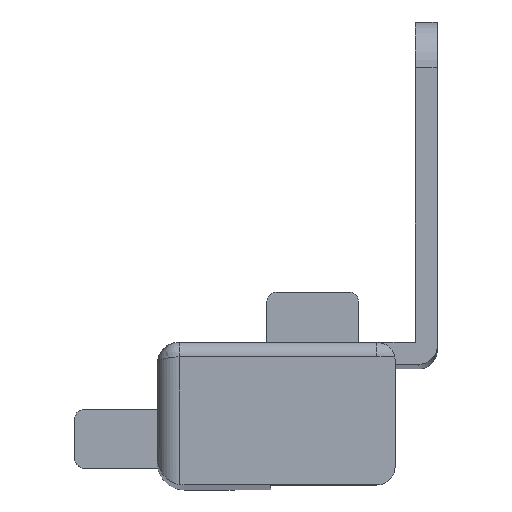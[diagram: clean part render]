
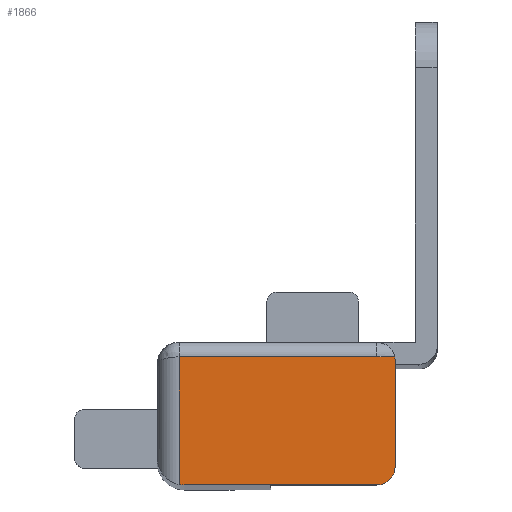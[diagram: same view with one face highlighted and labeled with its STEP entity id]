
A CAD part, top view. The second image highlights one B-rep face of the part: STEP entity #1866.
In plain terms, the highlighted planar face has unit normal (0, 0, 1).
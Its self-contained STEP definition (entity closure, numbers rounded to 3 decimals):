
#28 = EDGE_CURVE ( 'NONE', #424, #1555, #1658, .T. ) ;
#39 = EDGE_CURVE ( 'NONE', #424, #672, #688, .T. ) ;
#79 = VERTEX_POINT ( 'NONE', #443 ) ;
#138 = CARTESIAN_POINT ( 'NONE',  ( 13., 6.845, 68.46 ) ) ;
#174 = ORIENTED_EDGE ( 'NONE', *, *, #178, .F. ) ;
#178 = EDGE_CURVE ( 'NONE', #880, #1870, #2018, .T. ) ;
#180 = FACE_OUTER_BOUND ( 'NONE', #1449, .T. ) ;
#183 = AXIS2_PLACEMENT_3D ( 'NONE', #219, #209, #216 ) ;
#209 = DIRECTION ( 'NONE',  ( 0., 0., 1. ) ) ;
#214 = ORIENTED_EDGE ( 'NONE', *, *, #1374, .F. ) ;
#216 = DIRECTION ( 'NONE',  ( -1., 0., 0. ) ) ;
#219 = CARTESIAN_POINT ( 'NONE',  ( 12., -3.9, 68.46 ) ) ;
#232 = EDGE_CURVE ( 'NONE', #1870, #79, #2161, .T. ) ;
#250 = DIRECTION ( 'NONE',  ( 0., 1., 0. ) ) ;
#269 = ORIENTED_EDGE ( 'NONE', *, *, #320, .F. ) ;
#320 = EDGE_CURVE ( 'NONE', #672, #1815, #1301, .T. ) ;
#335 = CARTESIAN_POINT ( 'NONE',  ( 13., -3.9, 68.46 ) ) ;
#343 = DIRECTION ( 'NONE',  ( -1., 0., 0. ) ) ;
#418 = ORIENTED_EDGE ( 'NONE', *, *, #232, .F. ) ;
#424 = VERTEX_POINT ( 'NONE', #1076 ) ;
#443 = CARTESIAN_POINT ( 'NONE',  ( 12.98, 2.1, 68.46 ) ) ;
#498 = DIRECTION ( 'NONE',  ( -1., 0., 0. ) ) ;
#533 = CARTESIAN_POINT ( 'NONE',  ( 12., 1.9, 68.46 ) ) ;
#559 = DIRECTION ( 'NONE',  ( -1., 0., 0. ) ) ;
#630 = VECTOR ( 'NONE', #343, 1000. ) ;
#645 = ORIENTED_EDGE ( 'NONE', *, *, #866, .T. ) ;
#658 = CARTESIAN_POINT ( 'NONE',  ( 0., 2.1, 68.46 ) ) ;
#661 = DIRECTION ( 'NONE',  ( 1., 0., 0. ) ) ;
#672 = VERTEX_POINT ( 'NONE', #1276 ) ;
#688 = LINE ( 'NONE', #774, #630 ) ;
#722 = AXIS2_PLACEMENT_3D ( 'NONE', #2030, #1196, #498 ) ;
#730 = CARTESIAN_POINT ( 'NONE',  ( -2., 2.1, 68.46 ) ) ;
#732 = ORIENTED_EDGE ( 'NONE', *, *, #28, .T. ) ;
#734 = DIRECTION ( 'NONE',  ( 1., 0., 0. ) ) ;
#774 = CARTESIAN_POINT ( 'NONE',  ( 18., -4.9, 68.46 ) ) ;
#811 = CARTESIAN_POINT ( 'NONE',  ( 12., 2.1, 68.46 ) ) ;
#836 = VECTOR ( 'NONE', #1759, 1000. ) ;
#850 = ORIENTED_EDGE ( 'NONE', *, *, #39, .F. ) ;
#866 = EDGE_CURVE ( 'NONE', #1555, #1080, #946, .T. ) ;
#880 = VERTEX_POINT ( 'NONE', #1472 ) ;
#897 = PLANE ( 'NONE',  #722 ) ;
#920 = CARTESIAN_POINT ( 'NONE',  ( 1.5, -3.4, 68.46 ) ) ;
#924 = DIRECTION ( 'NONE',  ( 0., 0., -1. ) ) ;
#928 = DIRECTION ( 'NONE',  ( 0., -1., 0. ) ) ;
#946 = LINE ( 'NONE', #138, #1052 ) ;
#979 = LINE ( 'NONE', #1747, #836 ) ;
#1052 = VECTOR ( 'NONE', #250, 1000. ) ;
#1076 = CARTESIAN_POINT ( 'NONE',  ( 12., -4.9, 68.46 ) ) ;
#1080 = VERTEX_POINT ( 'NONE', #1562 ) ;
#1196 = DIRECTION ( 'NONE',  ( 0., 0., -1. ) ) ;
#1276 = CARTESIAN_POINT ( 'NONE',  ( 1.5, -4.9, 68.46 ) ) ;
#1301 = CIRCLE ( 'NONE', #2073, 1.5 ) ;
#1374 = EDGE_CURVE ( 'NONE', #1815, #880, #979, .T. ) ;
#1449 = EDGE_LOOP ( 'NONE', ( #850, #732, #645, #1456, #418, #174, #214, #269 ) ) ;
#1456 = ORIENTED_EDGE ( 'NONE', *, *, #1593, .F. ) ;
#1472 = CARTESIAN_POINT ( 'NONE',  ( 1.2, 2.1, 68.46 ) ) ;
#1555 = VERTEX_POINT ( 'NONE', #335 ) ;
#1562 = CARTESIAN_POINT ( 'NONE',  ( 13., 1.9, 68.46 ) ) ;
#1593 = EDGE_CURVE ( 'NONE', #79, #1080, #2044, .T. ) ;
#1594 = DIRECTION ( 'NONE',  ( 0., 0., -1. ) ) ;
#1658 = CIRCLE ( 'NONE', #183, 1. ) ;
#1747 = CARTESIAN_POINT ( 'NONE',  ( 1.2, 14.013, 68.46 ) ) ;
#1759 = DIRECTION ( 'NONE',  ( 0., 1., 0. ) ) ;
#1815 = VERTEX_POINT ( 'NONE', #2230 ) ;
#1866 = ADVANCED_FACE ( 'NONE', ( #180 ), #897, .F. ) ;
#1870 = VERTEX_POINT ( 'NONE', #811 ) ;
#1967 = VECTOR ( 'NONE', #661, 1000. ) ;
#2018 = LINE ( 'NONE', #658, #1967 ) ;
#2030 = CARTESIAN_POINT ( 'NONE',  ( 0., 26.2, 68.46 ) ) ;
#2044 = CIRCLE ( 'NONE', #2146, 1. ) ;
#2073 = AXIS2_PLACEMENT_3D ( 'NONE', #920, #924, #928 ) ;
#2146 = AXIS2_PLACEMENT_3D ( 'NONE', #533, #1594, #559 ) ;
#2161 = LINE ( 'NONE', #730, #2190 ) ;
#2190 = VECTOR ( 'NONE', #734, 1000. ) ;
#2230 = CARTESIAN_POINT ( 'NONE',  ( 1.2, -4.87, 68.46 ) ) ;
